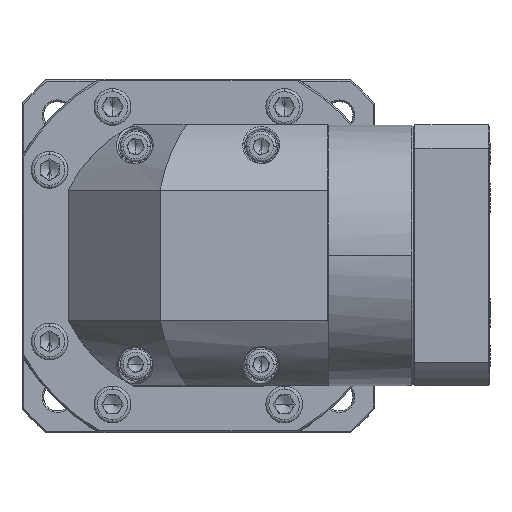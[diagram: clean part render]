
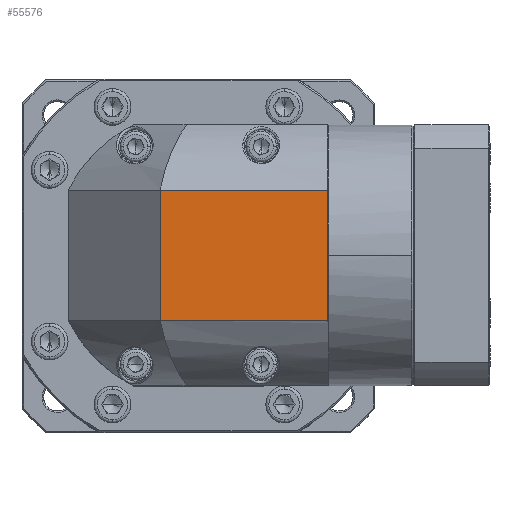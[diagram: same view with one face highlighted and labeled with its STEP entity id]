
A CAD part, top view. The second image highlights one B-rep face of the part: STEP entity #55576.
In plain terms, the highlighted planar face has unit normal (0, 0, 1).
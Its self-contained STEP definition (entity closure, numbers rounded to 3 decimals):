
#3721 = CARTESIAN_POINT ( 'NONE',  ( -96.209, 19.148, 319.002 ) ) ;
#4207 = CARTESIAN_POINT ( 'NONE',  ( -50.709, -23.279, 319.002 ) ) ;
#4366 = ORIENTED_EDGE ( 'NONE', *, *, #59788, .T. ) ;
#10119 = DIRECTION ( 'NONE',  ( 1., 0., 0. ) ) ;
#12423 = VERTEX_POINT ( 'NONE', #62671 ) ;
#13781 = DIRECTION ( 'NONE',  ( 1., 0., 0. ) ) ;
#14565 = EDGE_CURVE ( 'NONE', #12423, #27616, #131104, .T. ) ;
#23687 = ORIENTED_EDGE ( 'NONE', *, *, #101876, .F. ) ;
#26011 = CARTESIAN_POINT ( 'NONE',  ( 3.791, -2.065, 319.002 ) ) ;
#27616 = VERTEX_POINT ( 'NONE', #4207 ) ;
#30194 = VECTOR ( 'NONE', #126001, 1000. ) ;
#34661 = ORIENTED_EDGE ( 'NONE', *, *, #116232, .F. ) ;
#36789 = VECTOR ( 'NONE', #81019, 1000. ) ;
#37757 = VERTEX_POINT ( 'NONE', #74254 ) ;
#44126 = VERTEX_POINT ( 'NONE', #135031 ) ;
#55576 = ADVANCED_FACE ( 'NONE', ( #91205 ), #99182, .T. ) ;
#59788 = EDGE_CURVE ( 'NONE', #12423, #37757, #77994, .T. ) ;
#62671 = CARTESIAN_POINT ( 'NONE',  ( 3.791, -23.279, 319.002 ) ) ;
#70453 = CARTESIAN_POINT ( 'NONE',  ( -96.209, -23.279, 319.002 ) ) ;
#74254 = CARTESIAN_POINT ( 'NONE',  ( 3.791, 19.148, 319.002 ) ) ;
#75248 = VECTOR ( 'NONE', #13781, 1000. ) ;
#75758 = CARTESIAN_POINT ( 'NONE',  ( -38.209, -2.065, 319.002 ) ) ;
#77994 = LINE ( 'NONE', #26011, #81470 ) ;
#80378 = LINE ( 'NONE', #3721, #75248 ) ;
#81019 = DIRECTION ( 'NONE',  ( -1., 0., 0. ) ) ;
#81470 = VECTOR ( 'NONE', #135277, 1000. ) ;
#91205 = FACE_OUTER_BOUND ( 'NONE', #135679, .T. ) ;
#93399 = CARTESIAN_POINT ( 'NONE',  ( -50.709, -2.065, 319.002 ) ) ;
#99182 = PLANE ( 'NONE',  #119026 ) ;
#101876 = EDGE_CURVE ( 'NONE', #44126, #37757, #80378, .T. ) ;
#116053 = LINE ( 'NONE', #93399, #30194 ) ;
#116232 = EDGE_CURVE ( 'NONE', #27616, #44126, #116053, .T. ) ;
#119026 = AXIS2_PLACEMENT_3D ( 'NONE', #75758, #120799, #10119 ) ;
#120799 = DIRECTION ( 'NONE',  ( 0., 0., 1. ) ) ;
#126001 = DIRECTION ( 'NONE',  ( 0., 1., 0. ) ) ;
#131104 = LINE ( 'NONE', #70453, #36789 ) ;
#135031 = CARTESIAN_POINT ( 'NONE',  ( -50.709, 19.148, 319.002 ) ) ;
#135277 = DIRECTION ( 'NONE',  ( 0., 1., 0. ) ) ;
#135679 = EDGE_LOOP ( 'NONE', ( #23687, #34661, #136175, #4366 ) ) ;
#136175 = ORIENTED_EDGE ( 'NONE', *, *, #14565, .F. ) ;
